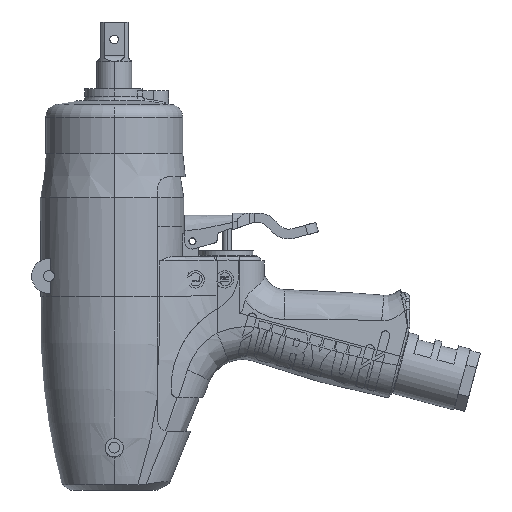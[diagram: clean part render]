
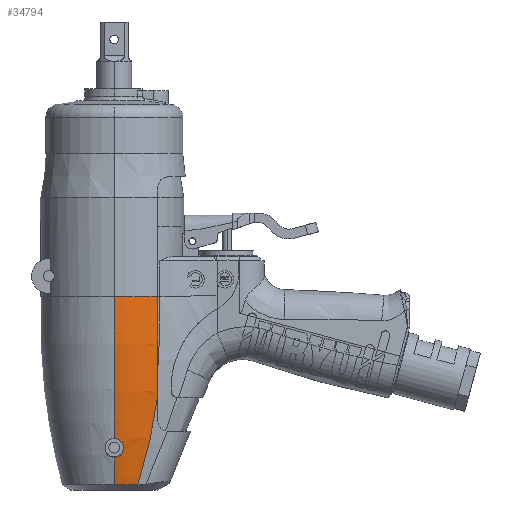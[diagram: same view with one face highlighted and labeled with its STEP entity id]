
A CAD part, left-side view. The second image highlights one B-rep face of the part: STEP entity #34794.
In plain terms, the highlighted toroidal (fillet/blend) face has major radius 267.857 mm and minor radius 302 mm.
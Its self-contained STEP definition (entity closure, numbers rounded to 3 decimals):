
#15 = ORIENTED_EDGE ( 'NONE', *, *, #5699, .T. ) ;
#508 = CARTESIAN_POINT ( 'NONE',  ( 0., 0., -118.469 ) ) ;
#1124 = VERTEX_POINT ( 'NONE', #48217 ) ;
#2489 = CARTESIAN_POINT ( 'NONE',  ( -28.449, -3.209, -185.2 ) ) ;
#2682 = CARTESIAN_POINT ( 'NONE',  ( -27.389, -3.709, -190.094 ) ) ;
#3241 = CIRCLE ( 'NONE', #16421, 302. ) ;
#3318 = CARTESIAN_POINT ( 'NONE',  ( -24.541, -19.045, -171.363 ) ) ;
#3913 = CARTESIAN_POINT ( 'NONE',  ( 267.857, 0., -127.755 ) ) ;
#4490 = CARTESIAN_POINT ( 'NONE',  ( -24.048, 0., -205.183 ) ) ;
#5174 = DIRECTION ( 'NONE',  ( 1., 0., 0. ) ) ;
#5699 = EDGE_CURVE ( 'NONE', #29310, #9825, #6352, .T. ) ;
#6352 = CIRCLE ( 'NONE', #19371, 24.048 ) ;
#6452 = CARTESIAN_POINT ( 'NONE',  ( 0., 0., -127.755 ) ) ;
#7034 = VERTEX_POINT ( 'NONE', #48652 ) ;
#7164 = CARTESIAN_POINT ( 'NONE',  ( -28.26, -3.687, -185.868 ) ) ;
#7242 = EDGE_CURVE ( 'NONE', #7034, #1124, #13171, .T. ) ;
#7366 = CARTESIAN_POINT ( 'NONE',  ( -27.304, -3.228, -190.778 ) ) ;
#7892 = ORIENTED_EDGE ( 'NONE', *, *, #10492, .T. ) ;
#8450 = CARTESIAN_POINT ( 'NONE',  ( 0., 0., -205.183 ) ) ;
#8576 = DIRECTION ( 'NONE',  ( -1., 0., 0. ) ) ;
#8909 = CIRCLE ( 'NONE', #46629, 302. ) ;
#9825 = VERTEX_POINT ( 'NONE', #15235 ) ;
#9834 = CARTESIAN_POINT ( 'NONE',  ( -27.498, -20., -137.744 ) ) ;
#10037 = DIRECTION ( 'NONE',  ( 0., 1., 0. ) ) ;
#10492 = EDGE_CURVE ( 'NONE', #34164, #24638, #43872, .T. ) ;
#11160 = DIRECTION ( 'NONE',  ( 1., 0., 0. ) ) ;
#11867 = CARTESIAN_POINT ( 'NONE',  ( -28.064, -4.027, -186.615 ) ) ;
#12057 = CARTESIAN_POINT ( 'NONE',  ( -27.244, -2.616, -191.361 ) ) ;
#13144 = DIRECTION ( 'NONE',  ( 1., 0., 0. ) ) ;
#13171 = CIRCLE ( 'NONE', #39765, 34. ) ;
#13596 = AXIS2_PLACEMENT_3D ( 'NONE', #6452, #38892, #11160 ) ;
#14503 = CARTESIAN_POINT ( 'NONE',  ( -27.697, -20., -126.161 ) ) ;
#15235 = CARTESIAN_POINT ( 'NONE',  ( -21.465, -10.843, -205.183 ) ) ;
#16363 = CARTESIAN_POINT ( 'NONE',  ( -28.906, 0., -183.75 ) ) ;
#16421 = AXIS2_PLACEMENT_3D ( 'NONE', #37995, #10037, #42670 ) ;
#16553 = CARTESIAN_POINT ( 'NONE',  ( -27.874, -4.219, -187.417 ) ) ;
#16763 = CARTESIAN_POINT ( 'NONE',  ( -27.206, -1.906, -191.809 ) ) ;
#16998 = CARTESIAN_POINT ( 'NONE',  ( -21.465, -10.843, -205.183 ) ) ;
#17159 = EDGE_CURVE ( 'NONE', #29310, #24638, #8909, .T. ) ;
#17433 = ORIENTED_EDGE ( 'NONE', *, *, #17159, .F. ) ;
#19210 = CARTESIAN_POINT ( 'NONE',  ( -27.495, -20., -118.469 ) ) ;
#19371 = AXIS2_PLACEMENT_3D ( 'NONE', #8450, #41101, #13144 ) ;
#20951 = CARTESIAN_POINT ( 'NONE',  ( -24.861, -20., -164.434 ) ) ;
#21030 = CARTESIAN_POINT ( 'NONE',  ( -28.833, -1.382, -183.971 ) ) ;
#21229 = CARTESIAN_POINT ( 'NONE',  ( -27.7, -4.252, -188.238 ) ) ;
#21428 = CARTESIAN_POINT ( 'NONE',  ( -27.185, -1.115, -192.111 ) ) ;
#21655 = CARTESIAN_POINT ( 'NONE',  ( -21.899, -11.928, -201.878 ) ) ;
#21950 = ORIENTED_EDGE ( 'NONE', *, *, #52286, .T. ) ;
#24520 = VERTEX_POINT ( 'NONE', #20951 ) ;
#24638 = VERTEX_POINT ( 'NONE', #40954 ) ;
#25079 = ORIENTED_EDGE ( 'NONE', *, *, #48080, .T. ) ;
#25742 = CARTESIAN_POINT ( 'NONE',  ( -28.719, -2.145, -184.32 ) ) ;
#25937 = CARTESIAN_POINT ( 'NONE',  ( -27.548, -4.125, -189.062 ) ) ;
#26127 = CARTESIAN_POINT ( 'NONE',  ( -27.176, -0.282, -192.25 ) ) ;
#26478 = TOROIDAL_SURFACE ( 'NONE', #13596, -267.857, 302. ) ;
#26559 = CARTESIAN_POINT ( 'NONE',  ( -22.985, -14.728, -191.808 ) ) ;
#26937 = EDGE_CURVE ( 'NONE', #34164, #7034, #3241, .T. ) ;
#28381 = CARTESIAN_POINT ( 'NONE',  ( -24.861, -20., -164.434 ) ) ;
#29310 = VERTEX_POINT ( 'NONE', #4490 ) ;
#30419 = CARTESIAN_POINT ( 'NONE',  ( -28.566, -2.822, -184.811 ) ) ;
#30622 = CARTESIAN_POINT ( 'NONE',  ( -27.425, -3.84, -189.842 ) ) ;
#31252 = CARTESIAN_POINT ( 'NONE',  ( -24.121, -17.821, -178.229 ) ) ;
#33083 = CARTESIAN_POINT ( 'NONE',  ( -26.048, -20., -156.876 ) ) ;
#33115 = DIRECTION ( 'NONE',  ( 0., 0., 1. ) ) ;
#34164 = VERTEX_POINT ( 'NONE', #53624 ) ;
#34794 = ADVANCED_FACE ( 'NONE', ( #40364 ), #26478, .T. ) ;
#35139 = CARTESIAN_POINT ( 'NONE',  ( -28.388, -3.382, -185.411 ) ) ;
#35338 = CARTESIAN_POINT ( 'NONE',  ( -27.329, -3.403, -190.561 ) ) ;
#35976 = CARTESIAN_POINT ( 'NONE',  ( -24.861, -20., -164.434 ) ) ;
#36556 = DIRECTION ( 'NONE',  ( 0., 1., 0. ) ) ;
#36649 = ORIENTED_EDGE ( 'NONE', *, *, #7242, .F. ) ;
#37786 = CARTESIAN_POINT ( 'NONE',  ( -26.844, -20., -149.256 ) ) ;
#37995 = CARTESIAN_POINT ( 'NONE',  ( 267.857, 0., -127.755 ) ) ;
#38892 = DIRECTION ( 'NONE',  ( 0., 0., 1. ) ) ;
#39621 = CARTESIAN_POINT ( 'NONE',  ( -28.906, -0.28, -183.75 ) ) ;
#39765 = AXIS2_PLACEMENT_3D ( 'NONE', #508, #33115, #5174 ) ;
#39817 = CARTESIAN_POINT ( 'NONE',  ( -28.194, -3.817, -186.112 ) ) ;
#40010 = CARTESIAN_POINT ( 'NONE',  ( -27.262, -2.835, -191.179 ) ) ;
#40364 = FACE_OUTER_BOUND ( 'NONE', #51888, .T. ) ;
#40954 = CARTESIAN_POINT ( 'NONE',  ( -27.176, 0., -192.25 ) ) ;
#41101 = DIRECTION ( 'NONE',  ( 0., 0., 1. ) ) ;
#42476 = CARTESIAN_POINT ( 'NONE',  ( -27.625, -20., -133.892 ) ) ;
#42670 = DIRECTION ( 'NONE',  ( -1., 0., 0. ) ) ;
#43872 = B_SPLINE_CURVE_WITH_KNOTS ( 'NONE', 3,
 ( #16363, #39621, #44306, #48978, #21030, #53676, #25742, #58370, #30419, #2489, #35139, #7164, #39817, #11867, #44504, #16553, #49180, #21229, #53870, #25937, #58579, #30622, #2682, #35338, #7366, #40010, #12057, #44708, #16763, #49368, #21428, #54082, #26127, #58760 ),
 .UNSPECIFIED., .F., .F.,
 ( 4, 2, 2, 2, 2, 2, 2, 2, 2, 2, 2, 2, 2, 2, 2, 2, 4 ),
 ( 0.024, 0.025, 0.026, 0.026, 0.027, 0.028, 0.029, 0.03, 0.031, 0.032, 0.032, 0.033, 0.034, 0.035, 0.036, 0.037, 0.037 ),
 .UNSPECIFIED. ) ;
#44306 = CARTESIAN_POINT ( 'NONE',  ( -28.897, -0.562, -183.778 ) ) ;
#44504 = CARTESIAN_POINT ( 'NONE',  ( -28., -4.108, -186.875 ) ) ;
#44708 = CARTESIAN_POINT ( 'NONE',  ( -27.217, -2.153, -191.675 ) ) ;
#46629 = AXIS2_PLACEMENT_3D ( 'NONE', #3913, #36556, #8576 ) ;
#47164 = CARTESIAN_POINT ( 'NONE',  ( -27.642, -20., -122.309 ) ) ;
#48080 = EDGE_CURVE ( 'NONE', #24520, #1124, #52099, .T. ) ;
#48217 = CARTESIAN_POINT ( 'NONE',  ( -27.495, -20., -118.469 ) ) ;
#48652 = CARTESIAN_POINT ( 'NONE',  ( -34., 0., -118.469 ) ) ;
#48978 = CARTESIAN_POINT ( 'NONE',  ( -28.86, -1.115, -183.889 ) ) ;
#49180 = CARTESIAN_POINT ( 'NONE',  ( -27.813, -4.248, -187.69 ) ) ;
#49183 = ORIENTED_EDGE ( 'NONE', *, *, #26937, .F. ) ;
#49368 = CARTESIAN_POINT ( 'NONE',  ( -27.19, -1.383, -192.029 ) ) ;
#51888 = EDGE_LOOP ( 'NONE', ( #17433, #15, #21950, #25079, #36649, #49183, #7892 ) ) ;
#52099 = B_SPLINE_CURVE_WITH_KNOTS ( 'NONE', 3,
 ( #28381, #33083, #37786, #9834, #42476, #14503, #47164, #19210 ),
 .UNSPECIFIED., .F., .F.,
 ( 4, 2, 2, 4 ),
 ( 0.063, 0.087, 0.098, 0.11 ),
 .UNSPECIFIED. ) ;
#52286 = EDGE_CURVE ( 'NONE', #9825, #24520, #55437, .T. ) ;
#53624 = CARTESIAN_POINT ( 'NONE',  ( -28.906, 0., -183.75 ) ) ;
#53676 = CARTESIAN_POINT ( 'NONE',  ( -28.762, -1.896, -184.186 ) ) ;
#53870 = CARTESIAN_POINT ( 'NONE',  ( -27.646, -4.228, -188.515 ) ) ;
#54082 = CARTESIAN_POINT ( 'NONE',  ( -27.178, -0.566, -192.221 ) ) ;
#54503 = CARTESIAN_POINT ( 'NONE',  ( -22.288, -12.915, -198.533 ) ) ;
#55437 = B_SPLINE_CURVE_WITH_KNOTS ( 'NONE', 3,
 ( #16998, #21655, #54503, #26559, #59216, #31252, #3318, #35976 ),
 .UNSPECIFIED., .F., .F.,
 ( 4, 2, 2, 4 ),
 ( 0., 0.011, 0.021, 0.042 ),
 .UNSPECIFIED. ) ;
#58370 = CARTESIAN_POINT ( 'NONE',  ( -28.621, -2.606, -184.632 ) ) ;
#58579 = CARTESIAN_POINT ( 'NONE',  ( -27.504, -4.047, -189.327 ) ) ;
#58760 = CARTESIAN_POINT ( 'NONE',  ( -27.176, 0., -192.25 ) ) ;
#59216 = CARTESIAN_POINT ( 'NONE',  ( -23.294, -15.555, -188.426 ) ) ;
